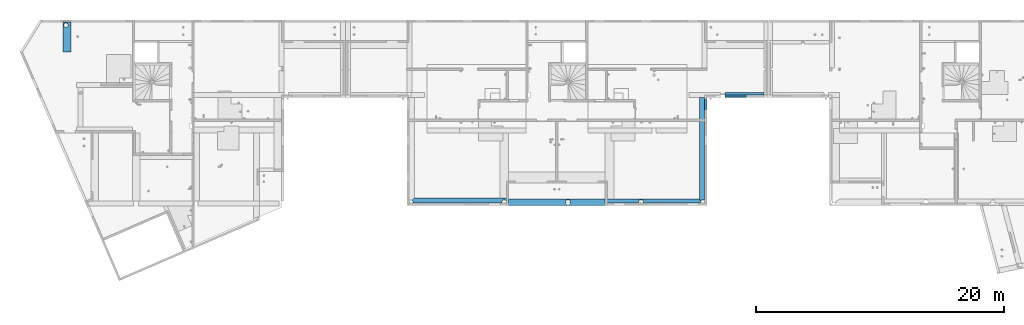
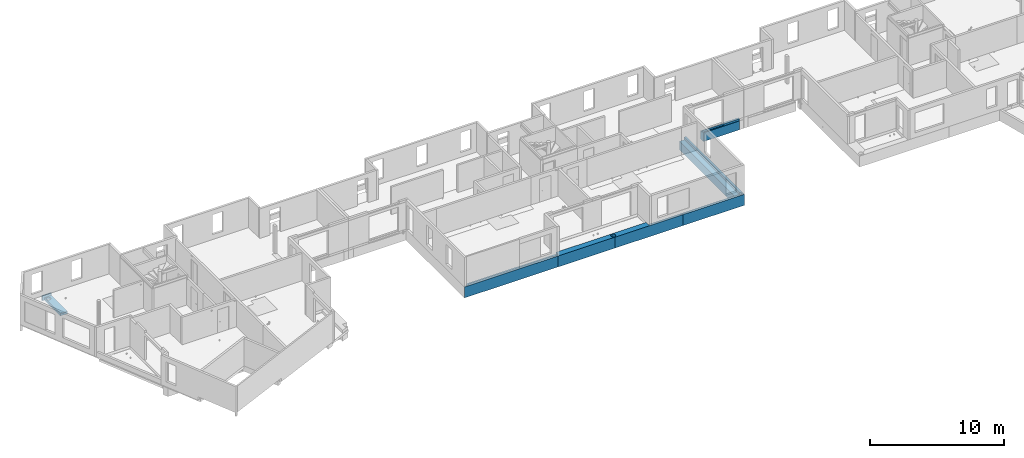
# One storey, part 21 of 34: 7 beams.
"""IFC2X3 building model written with IfcOpenShell, lengths in centimetres."""

from ifc_helpers import new_model, entity, si_unit, converted_unit, derived_unit, direction, frame, origin, place, context, subcontext, project, spatial, faceted_brep, material, type_object, element, save


model = new_model("IFC2X3")

# Units and contexts
model_context = context("Model", 3, precision=0.001, world=origin(), true_north=direction((6.12303176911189e-17, 1.0)))
body_context = subcontext(model_context, "Body", "Model", "MODEL_VIEW")
ifc_project = project(units=[si_unit("LENGTHUNIT", "METRE", prefix="CENTI"), si_unit("AREAUNIT", "SQUARE_METRE"), si_unit("VOLUMEUNIT", "CUBIC_METRE"), converted_unit("PLANEANGLEUNIT", "DEGREE", entity("IfcRatioMeasure", 0.0174532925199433), si_unit("PLANEANGLEUNIT", "RADIAN"), dimensions=[0, 0, 0, 0, 0, 0, 0]), si_unit("MASSUNIT", "GRAM", prefix="KILO"), derived_unit("MASSDENSITYUNIT", [(si_unit("MASSUNIT", "GRAM", prefix="KILO"), 1), (si_unit("LENGTHUNIT", "METRE"), -3)]), si_unit("TIMEUNIT", "SECOND"), si_unit("FREQUENCYUNIT", "HERTZ"), si_unit("THERMODYNAMICTEMPERATUREUNIT", "DEGREE_CELSIUS"), derived_unit("THERMALTRANSMITTANCEUNIT", [(si_unit("MASSUNIT", "GRAM", prefix="KILO"), 1), (si_unit("THERMODYNAMICTEMPERATUREUNIT", "KELVIN"), -1), (si_unit("TIMEUNIT", "SECOND"), -3)]), derived_unit("VOLUMETRICFLOWRATEUNIT", [(si_unit("LENGTHUNIT", "METRE"), 3), (si_unit("TIMEUNIT", "SECOND"), -1)]), si_unit("ELECTRICCURRENTUNIT", "AMPERE"), si_unit("ELECTRICVOLTAGEUNIT", "VOLT"), si_unit("POWERUNIT", "WATT"), si_unit("FORCEUNIT", "NEWTON"), si_unit("ILLUMINANCEUNIT", "LUX"), si_unit("LUMINOUSFLUXUNIT", "LUMEN"), si_unit("LUMINOUSINTENSITYUNIT", "CANDELA"), derived_unit("USERDEFINED", [(si_unit("MASSUNIT", "GRAM", prefix="KILO"), -1), (si_unit("LENGTHUNIT", "METRE"), -2), (si_unit("TIMEUNIT", "SECOND"), 3), (si_unit("LUMINOUSFLUXUNIT", "LUMEN"), 1)]), derived_unit("LINEARVELOCITYUNIT", [(si_unit("LENGTHUNIT", "METRE"), 1), (si_unit("TIMEUNIT", "SECOND"), -1)]), si_unit("PRESSUREUNIT", "PASCAL"), derived_unit("USERDEFINED", [(si_unit("LENGTHUNIT", "METRE"), -2), (si_unit("MASSUNIT", "GRAM", prefix="KILO"), 1), (si_unit("TIMEUNIT", "SECOND"), -2)])], contexts=[model_context])

# Site, building, storey
site_placement = place(None, origin())
site = spatial("IfcSite", under=ifc_project, at=site_placement, Name="Default", CompositionType="ELEMENT")
building_placement = place(site_placement, origin())
building = spatial("IfcBuilding", under=site, at=building_placement, Name="CAGE 03", CompositionType="ELEMENT")
storey_placement = place(building_placement, frame((0.0, 0.0, 340.0)))
storey = spatial("IfcBuildingStorey", under=building, at=storey_placement, Name="R+1", CompositionType="ELEMENT", Elevation=340.0)

# Beams
ifc_material = material(Name="Béton, C25/30")
beam_type_1 = type_object("IfcBeamType", Name="BBGO-Poutre rect:80x45ht", PredefinedType="BEAM")
beam_1_placement = place(storey_placement, frame((3077.36582014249, 5037.16066607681, -45.0), z_axis=(0.0, 0.0, 1.0), x_axis=(0.0, 1.0, 0.0)))
element("IfcBeam", 1, at=beam_1_placement, inside=storey, type_object=beam_type_1, material=ifc_material, Name="BBGO-Poutre rect:80x45ht", ObjectType="BBGO-Poutre rect:80x45ht", context=body_context, shape_type="Brep", body=[
    faceted_brep([(247.5, -40.0, 45.0), (247.5, -80.0, 45.0), (247.5, -80.0, 0.0), (247.5, -40.0, 0.0), (247.5, 0.0, 0.0), (247.5, 0.0, 45.0), (238.5, -80.0, 0.0), (238.499999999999, -80.0, 45.0), (238.499999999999, -80.0, 22.0), (0.0, -80.0, 22.0), (0.0, -80.0, 0.0), (229.155444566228, -48.7499999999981, 0.0), (230.90370196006, -44.5293332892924, 0.0), (231.500000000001, -40.0, 0.0), (230.90370196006, -35.4706667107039, 0.0), (238.5, -18.0, 0.0), (226.374368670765, -52.3743686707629, 0.0), (222.75, -55.1554445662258, 0.0), (218.529333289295, -56.903701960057, 0.0), (214.0, -57.4999999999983, 0.0), (209.470666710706, -56.903701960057, 0.0), (205.250000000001, -55.1554445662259, 0.0), (201.625631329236, -52.374368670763, 0.0), (198.844555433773, -48.7499999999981, 0.0), (197.096298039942, -44.5293332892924, 0.0), (196.5, -40.0, 0.0), (0.0, -18.0, 0.0), (197.096298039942, -35.4706667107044, 0.0), (198.844555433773, -31.2499999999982, 0.0), (201.625631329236, -27.6256313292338, 0.0), (205.250000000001, -24.8445554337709, 0.0), (209.470666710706, -23.0962980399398, 0.0), (214.0, -22.4999999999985, 0.0), (229.155444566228, -31.2499999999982, 0.0), (226.374368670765, -27.6256313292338, 0.0), (222.75, -24.8445554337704, 0.0), (218.529333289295, -23.0962980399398, 0.0), (238.5, 0.0, 0.0), (238.5, 0.0, 22.0), (238.499999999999, 0.0, 45.0), (231.500000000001, -40.0, 22.0), (230.90370196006, -44.5293332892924, 22.0), (238.499999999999, -18.0, 22.0), (230.90370196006, -35.4706667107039, 22.0), (229.155444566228, -48.7499999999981, 22.0), (226.374368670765, -52.3743686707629, 22.0), (222.75, -55.1554445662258, 22.0), (218.529333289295, -56.903701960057, 22.0), (214.0, -57.4999999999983, 22.0), (209.470666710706, -56.903701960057, 22.0), (205.250000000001, -55.1554445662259, 22.0), (201.625631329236, -52.374368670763, 22.0), (198.844555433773, -48.7499999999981, 22.0), (197.096298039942, -44.5293332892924, 22.0), (196.5, -40.0, 22.0), (0.0, -18.0, 22.0), (197.096298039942, -35.4706667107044, 22.0), (198.844555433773, -31.2499999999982, 22.0), (201.625631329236, -27.6256313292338, 22.0), (205.250000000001, -24.8445554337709, 22.0), (209.470666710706, -23.0962980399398, 22.0), (214.0, -22.4999999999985, 22.0), (218.529333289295, -23.0962980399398, 22.0), (222.75, -24.8445554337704, 22.0), (226.374368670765, -27.6256313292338, 22.0), (229.155444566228, -31.2499999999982, 22.0)], [[[0, 1, 2, 3, 4, 5]], [[6, 2, 1, 7, 8, 9, 10]], [[3, 2, 11]], [[11, 12, 3]], [[12, 13, 3]], [[3, 13, 14]], [[15, 3, 14]], [[15, 4, 3]], [[11, 2, 6]], [[16, 11, 6]], [[17, 16, 6]], [[6, 18, 17]], [[19, 18, 6]], [[6, 20, 19]], [[20, 6, 21]], [[10, 21, 6]], [[10, 22, 21]], [[22, 10, 23]], [[24, 23, 10]], [[10, 25, 24]], [[25, 10, 26]], [[27, 25, 26]], [[26, 28, 27]], [[28, 26, 29]], [[30, 29, 26]], [[26, 31, 30]], [[15, 31, 26]], [[31, 15, 32]], [[15, 14, 33]], [[33, 34, 15]], [[34, 35, 15]], [[35, 36, 15]], [[36, 32, 15]], [[37, 4, 15]], [[5, 4, 37, 38, 39]], [[0, 5, 39, 7, 1]], [[40, 41, 8]], [[42, 40, 8]], [[40, 42, 43]], [[44, 8, 41]], [[8, 44, 45]], [[8, 45, 46]], [[8, 46, 47]], [[47, 48, 8]], [[49, 8, 48]], [[50, 8, 49]], [[8, 50, 9]], [[50, 51, 9]], [[52, 9, 51]], [[9, 52, 53]], [[53, 54, 9]], [[55, 9, 54]], [[55, 54, 56]], [[56, 57, 55]], [[58, 55, 57]], [[55, 58, 59]], [[55, 59, 60]], [[60, 61, 42]], [[42, 55, 60]], [[42, 61, 62]], [[42, 62, 63]], [[42, 63, 64]], [[64, 65, 42]], [[65, 43, 42]], [[37, 15, 42, 8, 7, 39, 38]], [[26, 10, 9, 55]], [[15, 26, 55, 42]], [[30, 31, 60, 59]], [[30, 59, 58, 29]], [[27, 28, 57, 56]], [[58, 57, 28, 29]], [[25, 27, 56, 54]], [[32, 61, 60, 31]], [[23, 24, 53, 52]], [[23, 52, 51, 22]], [[20, 21, 50, 49]], [[51, 50, 21, 22]], [[19, 20, 49, 48]], [[54, 53, 24, 25]], [[47, 18, 19, 48]], [[12, 11, 44, 41]], [[16, 45, 44, 11]], [[13, 12, 41, 40]], [[47, 46, 17, 18]], [[46, 45, 16, 17]], [[33, 14, 43, 65]], [[33, 65, 64, 34]], [[36, 35, 63, 62]], [[64, 63, 35, 34]], [[32, 36, 62, 61]], [[40, 43, 14, 13]]]),
])
beam_type_2 = type_object("IfcBeamType", Name="BBGO-Poutre rect:40x100ht", PredefinedType="BEAM")
beam_2_placement = place(storey_placement, frame((8439.36582014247, 4668.66066607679, -100.0)))
element("IfcBeam", 2, at=beam_2_placement, inside=storey, type_object=beam_type_2, material=ifc_material, Name="BBGO-Poutre rect:40x100ht", ObjectType="BBGO-Poutre rect:40x100ht", context=body_context, shape_type="Brep", body=[
    faceted_brep([(313.0, 0.0, 0.0), (313.0, 40.0, 0.0), (313.0, 40.0, 77.0), (313.0, 18.0, 77.0), (313.0, 18.0, 100.0), (313.0, 0.0, 100.0), (313.0, 0.0, 99.5899561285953), (313.0, 2.0, 99.6099582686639), (313.0, 2.0, 80.0), (313.0, 0.0, 80.0), (173.0, 0.0, 100.0), (173.0, 0.0, 99.5899561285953), (0.0, 0.0, 0.0), (0.0, 40.0, 0.0), (0.0, 40.0, 77.0), (181.0, 18.0, 100.0), (181.0, 2.0, 100.0), (173.0, 2.0, 100.0), (0.0, 0.0, 80.0), (0.0, 2.0, 80.0), (0.0, 2.0, 88.0), (0.0, 18.0, 88.0), (0.0, 18.0, 77.0), (181.0, 18.0, 88.0), (173.0, 2.0, 99.6099582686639), (181.0, 2.0, 88.0), (181.0, 2.0, 99.6099582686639)], [[[0, 1, 2, 3, 4, 5, 6, 7, 8, 9]], [[5, 10, 11, 6]], [[1, 0, 12, 13]], [[1, 13, 14, 2]], [[5, 4, 15, 16, 17, 10]], [[13, 12, 18, 19, 20, 21, 22, 14]], [[2, 14, 22, 3]], [[3, 22, 21, 23, 15, 4]], [[11, 10, 17, 24]], [[21, 20, 25, 23]], [[8, 19, 18, 9]], [[24, 26, 7, 6, 11]], [[26, 25, 20, 19, 8, 7]], [[26, 24, 17, 16]], [[12, 0, 9, 18]], [[25, 26, 16, 15, 23]]]),
])
beam_type_3 = type_object("IfcBeamType", Name="BBGO-Poutre rect:50x100ht", PredefinedType="BEAM")
beam_3_placement = place(storey_placement, frame((6682.36582014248, 3796.6606660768, -100.0)))
element("IfcBeam", 3, at=beam_3_placement, inside=storey, type_object=beam_type_3, material=ifc_material, Name="BBGO-Poutre rect:50x100ht", ObjectType="BBGO-Poutre rect:50x100ht", context=body_context, shape_type="Brep", body=[
    faceted_brep([(0.0, 50.0, 0.0), (0.0, 0.0, 0.0), (0.0, 0.0, 100.0), (0.0, 18.0, 100.0), (0.0, 18.0, 77.0), (0.0, 50.0, 77.0), (489.0, 0.0, 0.0), (489.0, 0.0, 100.0), (9.0, 0.0, 100.0), (489.0, 5.0, 0.0), (9.0, 50.0, 0.0), (489.0, 50.0, 0.0), (489.0, 45.0, 0.0), (484.549581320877, 44.4985582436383, 0.0), (480.322325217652, 43.0193773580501, 0.0), (476.530203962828, 40.6366296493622, 0.0), (473.363370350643, 37.4697960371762, 0.0), (470.980622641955, 33.6776747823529, 0.0), (469.501441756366, 29.4504186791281, 0.0), (469.0, 25.0, 0.0), (469.501441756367, 20.5495813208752, 0.0), (470.980622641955, 16.3223252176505, 0.0), (473.363370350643, 12.5302039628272, 0.0), (476.530203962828, 9.36337035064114, 0.0), (480.322325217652, 6.98062264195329, 0.0), (484.549581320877, 5.50144175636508, 0.0), (9.0, 50.0, 77.0), (9.0, 50.0, 100.0), (489.0, 50.0, 100.0), (489.0, 50.0, 75.0), (9.0, 50.0, 75.0), (9.0, 50.0, 55.0), (489.0, 50.0, 55.0), (489.0, 45.0, 100.0), (9.0, 18.0, 100.0), (489.0, 5.0, 100.0), (484.549581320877, 5.50144175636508, 100.0), (480.322325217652, 6.98062264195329, 100.0), (476.530203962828, 9.36337035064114, 100.0), (473.363370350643, 12.5302039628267, 100.0), (470.980622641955, 16.3223252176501, 100.0), (470.241032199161, 18.4359532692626, 100.0), (469.501441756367, 20.5495813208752, 100.0), (469.250720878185, 22.774790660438, 100.0), (469.0, 25.0, 100.0), (469.501441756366, 29.4504186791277, 100.0), (470.980622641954, 33.6776747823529, 100.0), (473.363370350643, 37.4697960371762, 100.0), (476.530203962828, 40.6366296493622, 100.0), (480.322325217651, 43.0193773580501, 100.0), (484.549581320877, 44.4985582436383, 100.0), (469.318792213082, 21.4433077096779, 55.0), (469.0, 25.0, 55.0), (470.265006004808, 18.0, 55.0), (469.0, 25.0, 75.0), (469.318792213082, 21.4433077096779, 75.0), (470.265006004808, 18.0, 75.0), (489.0, 45.0, 55.0), (484.549581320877, 44.4985582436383, 55.0), (484.549581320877, 44.4985582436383, 75.0), (489.0, 45.0, 75.0), (480.322325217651, 43.0193773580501, 55.0), (480.322325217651, 43.0193773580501, 75.0), (476.530203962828, 40.6366296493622, 55.0), (476.530203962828, 40.6366296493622, 75.0), (473.363370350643, 37.4697960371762, 55.0), (473.363370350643, 37.4697960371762, 75.0), (470.980622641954, 33.6776747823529, 55.0), (470.980622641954, 33.6776747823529, 75.0), (469.501441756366, 29.4504186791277, 55.0), (469.501441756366, 29.4504186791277, 75.0), (9.0, 18.0, 55.0), (9.0, 18.0, 75.0), (9.0, 18.0, 77.0)], [[[0, 1, 2, 3, 4, 5]], [[6, 7, 8, 2, 1]], [[9, 6, 1, 0, 10, 11, 12, 13, 14, 15, 16, 17, 18, 19, 20, 21, 22, 23, 24, 25]], [[11, 10, 0, 5, 26, 27, 28, 29, 30, 31, 32]], [[33, 28, 27, 34, 3, 2, 8, 7, 35, 36, 37, 38, 39, 40, 41, 42, 43, 44, 45, 46, 47, 48, 49, 50]], [[51, 19, 52]], [[20, 51, 53]], [[19, 51, 20]], [[21, 20, 53]], [[54, 43, 55]], [[44, 43, 54]], [[42, 56, 55]], [[43, 42, 55]], [[53, 56, 40]], [[41, 40, 56, 42]], [[22, 21, 53]], [[23, 22, 39, 38]], [[25, 24, 37, 36]], [[38, 37, 24, 23]], [[9, 25, 36, 35]], [[53, 40, 39]], [[22, 53, 39]], [[13, 12, 57, 58]], [[33, 50, 59, 60]], [[14, 13, 58, 61]], [[50, 49, 62, 59]], [[15, 14, 61, 63]], [[49, 48, 64, 62]], [[63, 65, 16, 15]], [[48, 47, 66, 64]], [[17, 16, 65, 67]], [[47, 46, 68, 66]], [[18, 17, 67, 69]], [[46, 45, 70, 68]], [[19, 18, 69, 52]], [[45, 44, 54, 70]], [[7, 6, 9, 35]], [[33, 60, 29, 28]], [[57, 12, 11, 32]], [[58, 57, 32, 31, 71, 53, 51, 52, 69, 67, 65, 63, 61]], [[70, 54, 55, 56, 72, 30, 29, 60, 59, 62, 64, 66, 68]], [[56, 53, 71, 72]], [[3, 34, 73, 4]], [[72, 71, 31, 30]], [[4, 73, 26, 5]], [[27, 26, 73, 34]]]),
])
beam_4_placement = place(storey_placement, frame((7171.20707014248, 3796.6606660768, -100.0)))
element("IfcBeam", 4, at=beam_4_placement, inside=storey, type_object=beam_type_3, material=ifc_material, Name="BBGO-Poutre rect:50x100ht", ObjectType="BBGO-Poutre rect:50x100ht", context=body_context, shape_type="Brep", body=[
    faceted_brep([(590.15875, 0.0, 0.0), (590.15875, 0.0, 100.0), (318.15874999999, 0.0, 100.0), (300.158749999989, 0.0, 100.0), (0.158749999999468, 0.0, 100.0), (0.158749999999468, 0.0, 0.0), (590.15875, 5.0, 0.0), (0.158749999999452, 5.0, 0.0), (4.60916867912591, 5.50144175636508, 0.0), (8.83642478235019, 6.98062264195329, 0.0), (12.6285460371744, 9.36337035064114, 0.0), (15.79537964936, 12.5302039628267, 0.0), (18.1781273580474, 16.3223252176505, 0.0), (19.657308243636, 20.5495813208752, 0.0), (20.1587499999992, 25.0, 0.0), (19.657308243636, 29.4504186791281, 0.0), (18.1781273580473, 33.6776747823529, 0.0), (15.7953796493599, 37.4697960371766, 0.0), (12.6285460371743, 40.6366296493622, 0.0), (8.83642478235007, 43.0193773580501, 0.0), (4.60916867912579, 44.4985582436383, 0.0), (0.158749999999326, 45.0, 0.0), (0.15874999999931, 50.0, 0.0), (590.158749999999, 50.0, 0.0), (590.158749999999, 45.0, 0.0), (585.708331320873, 44.4985582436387, 0.0), (581.481075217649, 43.0193773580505, 0.0), (577.688953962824, 40.6366296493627, 0.0), (574.522120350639, 37.4697960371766, 0.0), (572.139372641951, 33.6776747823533, 0.0), (570.660191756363, 29.4504186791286, 0.0), (570.15875, 25.0, 0.0), (570.660191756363, 20.5495813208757, 0.0), (572.139372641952, 16.3223252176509, 0.0), (574.522120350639, 12.5302039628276, 0.0), (577.688953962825, 9.36337035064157, 0.0), (581.481075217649, 6.98062264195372, 0.0), (585.708331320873, 5.50144175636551, 0.0), (370.158749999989, 50.0, 77.0), (590.158749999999, 50.0, 77.0), (0.15874999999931, 50.0, 55.0), (300.158749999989, 50.0, 55.0), (300.158749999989, 50.0, 75.0), (0.15874999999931, 50.0, 75.0), (0.15874999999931, 50.0, 100.0), (300.158749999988, 50.0, 100.0), (300.158749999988, 50.0, 77.0), (590.15875, 5.0, 100.0), (586.140226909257, 5.40787218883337, 100.0), (582.28732545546, 6.61411749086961, 100.0), (578.755327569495, 8.56948093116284, 100.0), (575.688287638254, 11.1939969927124, 100.0), (573.210855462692, 14.3807311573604, 100.0), (571.423756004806, 18.0, 100.0), (318.158749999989, 18.0, 100.0), (300.158749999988, 18.0, 100.0), (0.158749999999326, 45.0, 100.0), (4.60916867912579, 44.4985582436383, 100.0), (8.83642478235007, 43.0193773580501, 100.0), (12.6285460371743, 40.6366296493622, 100.0), (15.7953796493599, 37.4697960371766, 100.0), (18.1781273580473, 33.6776747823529, 100.0), (19.657308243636, 29.4504186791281, 100.0), (20.1587499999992, 25.0, 100.0), (19.908029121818, 22.7747906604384, 100.0), (19.657308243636, 20.5495813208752, 100.0), (18.9177178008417, 18.4359532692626, 100.0), (18.1781273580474, 16.3223252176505, 100.0), (15.79537964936, 12.5302039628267, 100.0), (12.6285460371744, 9.36337035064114, 100.0), (8.83642478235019, 6.98062264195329, 100.0), (4.60916867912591, 5.50144175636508, 100.0), (0.158749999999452, 5.0, 100.0), (570.477542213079, 21.4433077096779, 77.0), (571.423756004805, 18.0, 77.0), (570.15875, 25.0, 77.0), (590.158749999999, 45.0, 77.0), (585.708331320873, 44.4985582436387, 77.0), (581.481075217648, 43.0193773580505, 77.0), (577.688953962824, 40.6366296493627, 77.0), (574.522120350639, 37.4697960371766, 77.0), (572.139372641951, 33.6776747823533, 77.0), (570.660191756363, 29.4504186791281, 77.0), (18.8937439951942, 18.0, 55.0), (19.8399577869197, 21.4433077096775, 55.0), (20.1587499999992, 25.0, 55.0), (18.8937439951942, 18.0, 75.0), (19.8399577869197, 21.4433077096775, 75.0), (20.1587499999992, 25.0, 75.0), (19.657308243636, 29.4504186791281, 55.0), (19.657308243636, 29.4504186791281, 75.0), (18.1781273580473, 33.6776747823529, 55.0), (18.1781273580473, 33.6776747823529, 75.0), (15.7953796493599, 37.4697960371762, 55.0), (15.7953796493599, 37.4697960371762, 75.0), (12.6285460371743, 40.6366296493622, 55.0), (12.6285460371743, 40.6366296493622, 75.0), (8.83642478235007, 43.0193773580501, 55.0), (8.83642478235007, 43.0193773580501, 75.0), (4.60916867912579, 44.4985582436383, 55.0), (4.60916867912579, 44.4985582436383, 75.0), (0.158749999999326, 45.0, 55.0), (0.158749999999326, 45.0, 75.0), (300.158749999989, 18.0, 55.0), (300.158749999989, 18.0, 75.0), (300.158749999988, 18.0, 77.0)], [[[0, 1, 2, 3, 4, 5]], [[6, 0, 5, 7, 8, 9, 10, 11, 12, 13, 14, 15, 16, 17, 18, 19, 20, 21, 22, 23, 24, 25, 26, 27, 28, 29, 30, 31, 32, 33, 34, 35, 36, 37]], [[38, 39, 23, 22, 40, 41, 42, 43, 44, 45, 46]], [[2, 1, 47, 48, 49, 50, 51, 52, 53, 54, 55, 45, 44, 56, 57, 58, 59, 60, 61, 62, 63, 64, 65, 66, 67, 68, 69, 70, 71, 72, 4, 3]], [[32, 31, 73]], [[33, 32, 74]], [[34, 33, 52]], [[73, 31, 75]], [[53, 52, 74]], [[33, 74, 52]], [[73, 74, 32]], [[52, 51, 34]], [[36, 35, 50]], [[37, 36, 49]], [[6, 37, 48]], [[50, 35, 51]], [[36, 50, 49]], [[49, 48, 37]], [[48, 47, 6]], [[34, 51, 35]], [[25, 24, 76, 77]], [[26, 25, 77, 78]], [[27, 26, 78, 79]], [[79, 80, 28, 27]], [[29, 28, 80, 81]], [[30, 29, 81, 82]], [[31, 30, 82, 75]], [[9, 8, 71, 70]], [[11, 10, 69, 68]], [[70, 69, 10, 9]], [[11, 68, 83]], [[7, 72, 71, 8]], [[83, 12, 11]], [[84, 13, 83]], [[12, 83, 13]], [[85, 14, 84]], [[13, 84, 14]], [[66, 65, 86, 67]], [[83, 67, 86]], [[87, 86, 65]], [[64, 63, 88]], [[87, 64, 88]], [[65, 64, 87]], [[68, 67, 83]], [[85, 89, 15, 14]], [[90, 88, 63, 62]], [[89, 91, 16, 15]], [[92, 90, 62, 61]], [[17, 16, 91, 93]], [[94, 92, 61, 60]], [[93, 95, 18, 17]], [[60, 59, 96, 94]], [[19, 18, 95, 97]], [[59, 58, 98, 96]], [[20, 19, 97, 99]], [[58, 57, 100, 98]], [[21, 20, 99, 101]], [[57, 56, 102, 100]], [[44, 43, 102, 56]], [[72, 7, 5, 4]], [[40, 22, 21, 101]], [[1, 0, 6, 47]], [[76, 24, 23, 39]], [[95, 93, 91, 89, 85, 84, 83, 103, 41, 40, 101, 99, 97]], [[87, 88, 90, 92, 94, 96, 98, 100, 102, 43, 42, 104, 86]], [[42, 41, 103, 104]], [[104, 103, 83, 86]], [[54, 53, 74, 105, 55]], [[77, 76, 39, 38, 46, 105, 74, 73, 75, 82, 81, 80, 79, 78]], [[45, 55, 105, 46]]]),
])
beam_5_placement = place(storey_placement, frame((7761.20707014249, 3796.6606660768, -100.0)))
element("IfcBeam", 5, at=beam_5_placement, inside=storey, type_object=beam_type_3, material=ifc_material, Name="BBGO-Poutre rect:50x100ht", ObjectType="BBGO-Poutre rect:50x100ht", context=body_context, shape_type="Brep", body=[
    faceted_brep([(531.15874999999, 0.0, 0.0), (531.15874999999, 0.0, 100.0), (0.158749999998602, 0.0, 100.0), (0.158749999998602, 0.0, 0.0), (499.108683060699, 5.10534681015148, 0.0), (503.989249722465, 5.20130632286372, 0.0), (508.701195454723, 6.47673040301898, 0.0), (512.963816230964, 8.85563840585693, 0.0), (516.523175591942, 12.1963120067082, 0.0), (0.158749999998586, 5.0, 0.0), (4.60916867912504, 5.50144175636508, 0.0), (8.83642478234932, 6.98062264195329, 0.0), (12.6285460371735, 9.36337035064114, 0.0), (15.7953796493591, 12.5302039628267, 0.0), (18.1781273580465, 16.3223252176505, 0.0), (19.6573082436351, 20.5495813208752, 0.0), (20.1587499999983, 25.0, 0.0), (19.6573082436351, 29.4504186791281, 0.0), (18.1781273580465, 33.6776747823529, 0.0), (15.795379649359, 37.4697960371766, 0.0), (12.6285460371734, 40.6366296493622, 0.0), (8.83642478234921, 43.0193773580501, 0.0), (4.60916867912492, 44.4985582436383, 0.0), (0.158749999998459, 45.0, 0.0), (0.158749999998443, 50.0, 0.0), (471.15874999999, 50.0, 0.0), (485.794324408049, 37.8036879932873, 0.0), (483.265836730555, 33.9355276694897, 0.0), (481.692647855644, 29.5903014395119, 0.0), (481.158749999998, 25.0, 0.0), (481.754478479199, 20.1549771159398, 0.0), (483.506174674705, 15.5985860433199, 0.0), (486.309485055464, 11.6022639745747, 0.0), (489.997408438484, 8.40408319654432, 0.0), (494.350244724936, 6.19456844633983, 0.0), (471.15874999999, 50.0, 77.0), (0.158749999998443, 50.0, 77.0), (491.275308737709, 7.61271761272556, 100.0), (487.540595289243, 10.3526158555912, 100.0), (484.536391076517, 13.8780764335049, 100.0), (482.423756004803, 18.0, 100.0), (18.8937439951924, 18.0, 100.0), (17.1066445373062, 14.3807311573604, 100.0), (14.6292123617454, 11.1939969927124, 100.0), (11.5621724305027, 8.56948093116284, 100.0), (8.03017454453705, 6.61411749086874, 100.0), (4.17727309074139, 5.40787218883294, 100.0), (0.158749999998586, 5.0, 100.0), (516.523175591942, 12.1963120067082, 100.0), (513.164425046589, 9.00425785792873, 100.0), (509.161901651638, 6.67107303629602, 100.0), (504.730052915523, 5.32143817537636, 100.0), (500.106845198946, 5.02768174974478, 100.0), (495.540292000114, 5.80539321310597, 100.0), (18.8937439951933, 18.0, 77.0), (19.8399577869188, 21.443307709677, 77.0), (20.1587499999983, 25.0, 77.0), (19.6573082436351, 29.4504186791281, 77.0), (18.1781273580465, 33.6776747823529, 77.0), (15.795379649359, 37.4697960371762, 77.0), (12.6285460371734, 40.6366296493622, 77.0), (8.83642478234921, 43.0193773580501, 77.0), (4.60916867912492, 44.4985582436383, 77.0), (0.158749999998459, 45.0, 77.0), (481.158749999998, 25.0, 77.0), (481.477542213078, 21.4433077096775, 77.0), (482.423756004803, 18.0, 77.0), (485.794324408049, 37.8036879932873, 77.0), (483.265836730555, 33.9355276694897, 77.0), (481.692647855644, 29.5903014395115, 77.0)], [[[0, 1, 2, 3]], [[4, 5, 6, 7, 8, 0, 3, 9, 10, 11, 12, 13, 14, 15, 16, 17, 18, 19, 20, 21, 22, 23, 24, 25, 26, 27, 28, 29, 30, 31, 32, 33, 34]], [[35, 25, 24, 36]], [[37, 38, 39, 40, 41, 42, 43, 44, 45, 46, 47, 2, 1, 48, 49, 50, 51, 52, 53]], [[10, 9, 46]], [[11, 10, 45]], [[12, 11, 44]], [[46, 9, 47]], [[10, 46, 45]], [[45, 44, 11]], [[44, 43, 12]], [[43, 13, 12]], [[14, 13, 42]], [[15, 14, 54]], [[16, 15, 55]], [[41, 54, 42]], [[14, 42, 54]], [[15, 54, 55]], [[55, 56, 16]], [[43, 42, 13]], [[57, 17, 16, 56]], [[57, 58, 18, 17]], [[19, 18, 58, 59]], [[59, 60, 20, 19]], [[21, 20, 60, 61]], [[22, 21, 61, 62]], [[23, 22, 62, 63]], [[36, 24, 23, 63]], [[47, 9, 3, 2]], [[29, 64, 65]], [[29, 65, 30]], [[32, 31, 39]], [[66, 31, 30]], [[33, 32, 38]], [[30, 65, 66]], [[39, 66, 40]], [[66, 39, 31]], [[39, 38, 32]], [[38, 37, 33]], [[37, 34, 33]], [[4, 34, 53]], [[4, 52, 5]], [[7, 6, 50]], [[51, 6, 5]], [[8, 7, 49]], [[53, 52, 4]], [[52, 51, 5]], [[6, 51, 50]], [[50, 49, 7]], [[49, 48, 8]], [[37, 53, 34]], [[67, 68, 27, 26]], [[68, 69, 28, 27]], [[69, 64, 29, 28]], [[26, 25, 35, 67]], [[1, 0, 8, 48]], [[68, 67, 35, 36, 63, 62, 61, 60, 59, 58, 57, 56, 55, 54, 66, 65, 64, 69]], [[40, 66, 54, 41]]]),
])
beam_type_4 = type_object("IfcBeamType", Name="BBGO-Poutre rect:60x100ht", PredefinedType="BEAM")
beam_6_placement = place(storey_placement, frame((5870.36582014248, 3796.6606660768, -100.0)))
element("IfcBeam", 6, at=beam_6_placement, inside=storey, type_object=beam_type_4, material=ifc_material, Name="BBGO-Poutre rect:60x100ht", ObjectType="BBGO-Poutre rect:60x100ht", context=body_context, shape_type="Brep", body=[
    faceted_brep([(821.0, 60.0, 77.0), (821.0, 50.0, 77.0), (821.0, 50.0, 75.0), (821.0, 50.0, 55.0), (821.0, 50.0, 0.0), (821.0, 60.0, 0.0), (821.0, 60.0, 10.0), (812.0, 0.0, 0.0), (812.0, 0.0, 100.0), (803.0, 0.0, 100.0), (477.0, 0.0, 100.0), (18.0, 0.0, 100.0), (0.0, 0.0, 100.0), (0.0, 0.0, 0.0), (797.361294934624, 8.54032268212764, 0.0), (800.970214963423, 11.7375468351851, 0.0), (793.092097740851, 6.29967514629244, 0.0), (803.709120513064, 15.7055365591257, 0.0), (805.418836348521, 20.2136867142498, 0.0), (806.0, 25.0, 0.0), (812.0, 50.0, 0.0), (788.410733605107, 5.14582251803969, 0.0), (783.589266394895, 5.14582251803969, 0.0), (33.7509801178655, 5.354895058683, 0.0), (29.1664668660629, 5.01737698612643, 0.0), (24.6259885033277, 5.73552491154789, 0.0), (20.3694148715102, 7.4713996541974, 0.0), (16.6216173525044, 10.1332963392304, 0.0), (13.5805890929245, 13.5805890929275, 0.0), (778.90790225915, 6.29967514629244, 0.0), (38.1373320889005, 6.7302483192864, 0.0), (774.638705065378, 8.54032268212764, 0.0), (42.093795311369, 9.07077795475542, 0.0), (771.029785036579, 11.7375468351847, 0.0), (45.4113529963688, 12.2528356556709, 0.0), (768.290879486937, 15.7055365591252, 0.0), (47.9147412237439, 16.1083158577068, 0.0), (766.58116365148, 20.2136867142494, 0.0), (49.4717079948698, 20.4335366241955, 0.0), (60.0, 60.0, 0.0), (50.0, 25.0, 0.0), (49.4230588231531, 29.7691493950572, 0.0), (47.7255214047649, 34.2631469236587, 0.0), (45.0053256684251, 38.2227153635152, 0.0), (41.4194109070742, 41.4194109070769, 0.0), (766.0, 25.0, 0.0), (766.58116365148, 29.7863132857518, 0.0), (768.290879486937, 34.2944634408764, 0.0), (771.029785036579, 38.2624531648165, 0.0), (774.638705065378, 41.459677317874, 0.0), (778.90790225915, 43.7003248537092, 0.0), (788.410733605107, 44.8541774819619, 0.0), (783.589266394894, 44.8541774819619, 0.0), (805.418836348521, 29.7863132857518, 0.0), (803.709120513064, 34.294463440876, 0.0), (800.970214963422, 38.2624531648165, 0.0), (797.361294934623, 41.459677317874, 0.0), (793.092097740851, 43.7003248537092, 0.0), (60.0, 60.0, 77.0), (751.0, 60.0, 77.0), (812.0, 18.0, 100.0), (804.734993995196, 18.0, 100.0), (802.74912687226, 14.0699154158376, 100.0), (799.951758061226, 10.6700158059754, 100.0), (796.478317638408, 7.96459981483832, 100.0), (792.497245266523, 6.08477322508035, 100.0), (788.201449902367, 5.1215287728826, 100.0), (783.79905246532, 5.12147314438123, 100.0), (779.503318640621, 6.08457953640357, 100.0), (775.522344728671, 7.96419241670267, 100.0), (772.048993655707, 10.6692839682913, 100.0), (769.251562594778, 14.0688589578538, 100.0), (767.265006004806, 18.0, 100.0), (477.0, 18.0, 100.0), (48.7349939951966, 18.0, 100.0), (46.7818975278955, 14.1202980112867, 100.0), (44.037252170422, 10.7537530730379, 100.0), (40.6304779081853, 8.059134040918, 100.0), (36.7222078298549, 6.16354805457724, 100.0), (32.4967282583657, 5.156453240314, 100.0), (28.153304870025, 5.08543957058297, 100.0), (23.8968019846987, 5.95397747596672, 100.0), (19.928035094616, 7.72124070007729, 100.0), (16.4344372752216, 10.3038948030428, 100.0), (13.5805890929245, 13.5805890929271, 100.0), (48.7349939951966, 18.0, 77.0), (49.6812077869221, 21.4433077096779, 77.0), (50.0, 25.0, 77.0), (49.4230588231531, 29.7691493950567, 77.0), (47.7255214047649, 34.2631469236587, 77.0), (45.0053256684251, 38.2227153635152, 77.0), (41.4194109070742, 41.4194109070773, 77.0), (766.31879221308, 21.4433077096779, 77.0), (766.0, 25.0, 77.0), (767.265006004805, 18.0, 77.0), (805.681207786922, 21.4433077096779, 77.0), (804.734993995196, 18.0, 77.0), (806.0, 25.0, 77.0), (805.418836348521, 29.7863132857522, 77.0), (803.709120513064, 34.2944634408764, 77.0), (797.361294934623, 41.459677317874, 77.0), (793.092097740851, 43.7003248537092, 77.0), (800.970214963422, 38.2624531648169, 77.0), (788.410733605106, 44.8541774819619, 77.0), (783.589266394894, 44.8541774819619, 77.0), (778.90790225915, 43.7003248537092, 77.0), (774.638705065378, 41.459677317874, 77.0), (768.290879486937, 34.294463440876, 77.0), (766.58116365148, 29.7863132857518, 77.0), (771.029785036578, 38.2624531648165, 77.0), (812.0, 50.0, 77.0), (812.0, 18.0, 77.0)], [[[0, 1, 2, 3, 4, 5, 6]], [[7, 8, 9, 10, 11, 12, 13]], [[7, 14, 15]], [[14, 7, 16]], [[7, 15, 17]], [[17, 18, 7]], [[18, 19, 7]], [[19, 20, 7]], [[21, 16, 7]], [[22, 21, 7]], [[7, 23, 22]], [[7, 13, 23]], [[13, 24, 23]], [[24, 13, 25]], [[25, 13, 26]], [[27, 26, 13]], [[28, 27, 13]], [[22, 23, 29]], [[29, 23, 30]], [[31, 29, 30]], [[32, 31, 30]], [[33, 31, 32]], [[34, 33, 32]], [[35, 33, 34]], [[35, 34, 36]], [[35, 36, 37]], [[37, 36, 38]], [[37, 38, 39]], [[38, 40, 39]], [[40, 41, 39]], [[41, 42, 39]], [[42, 43, 39]], [[43, 44, 39]], [[45, 37, 39]], [[46, 45, 39]], [[39, 47, 46]], [[48, 47, 39]], [[48, 39, 49]], [[50, 49, 39]], [[5, 50, 39]], [[5, 4, 20]], [[51, 5, 20]], [[51, 52, 5]], [[50, 5, 52]], [[20, 19, 53]], [[54, 20, 53]], [[54, 55, 20]], [[20, 55, 56]], [[56, 57, 20]], [[57, 51, 20]], [[6, 5, 39, 58, 59, 0]], [[60, 61, 62, 63, 64, 65, 66, 67, 68, 69, 70, 71, 72, 73, 74, 75, 76, 77, 78, 79, 80, 81, 82, 83, 84, 12, 11, 10, 9, 8]], [[27, 28, 83]], [[27, 82, 26]], [[24, 25, 80]], [[81, 25, 26]], [[23, 24, 79]], [[84, 83, 28]], [[83, 82, 27]], [[82, 81, 26]], [[81, 80, 25]], [[24, 80, 79]], [[79, 78, 23]], [[78, 30, 23]], [[32, 30, 77]], [[32, 76, 34]], [[38, 36, 85]], [[75, 36, 34]], [[40, 38, 86]], [[76, 75, 34]], [[32, 77, 76]], [[86, 38, 85]], [[86, 87, 40]], [[75, 74, 85]], [[36, 75, 85]], [[78, 77, 30]], [[88, 89, 42, 41]], [[88, 41, 40, 87]], [[90, 91, 44, 43]], [[89, 90, 43, 42]], [[37, 45, 92]], [[45, 93, 92]], [[35, 37, 94]], [[69, 29, 31]], [[31, 33, 70]], [[33, 35, 71]], [[22, 29, 68]], [[37, 92, 94]], [[94, 72, 71]], [[94, 71, 35]], [[71, 70, 33]], [[70, 69, 31]], [[29, 69, 68]], [[68, 67, 22]], [[67, 21, 22]], [[16, 64, 14]], [[21, 65, 16]], [[15, 14, 63]], [[95, 18, 96]], [[62, 17, 15]], [[18, 17, 96]], [[95, 19, 18]], [[96, 17, 62]], [[64, 16, 65]], [[14, 64, 63]], [[21, 66, 65]], [[19, 95, 97]], [[61, 96, 62]], [[15, 63, 62]], [[67, 66, 21]], [[54, 53, 98, 99]], [[97, 98, 53, 19]], [[100, 101, 57, 56]], [[56, 55, 102, 100]], [[55, 54, 99, 102]], [[51, 57, 101, 103]], [[103, 104, 52, 51]], [[50, 52, 104, 105]], [[50, 105, 106, 49]], [[107, 108, 46, 47]], [[47, 48, 109, 107]], [[48, 49, 106, 109]], [[45, 46, 108, 93]], [[84, 28, 13, 12]], [[39, 44, 91, 58]], [[110, 1, 0, 59, 58, 91, 90, 89, 88, 87, 86, 85, 94, 92, 93, 108, 107, 109, 106, 105, 104, 103, 101, 100, 102, 99, 98, 97, 95, 96, 111]], [[60, 111, 96, 61]], [[73, 72, 94, 85, 74]], [[111, 60, 8, 7, 20, 110]], [[110, 20, 4, 3, 2, 1]]]),
])
beam_7_placement = place(storey_placement, frame((8232.36582014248, 3796.6606660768, -100.0), z_axis=(0.0, 0.0, 1.0), x_axis=(0.0, 1.0, 0.0)))
element("IfcBeam", 7, at=beam_7_placement, inside=storey, type_object=beam_type_4, material=ifc_material, Name="BBGO-Poutre rect:60x100ht", ObjectType="BBGO-Poutre rect:60x100ht", context=body_context, shape_type="Brep", body=[
    faceted_brep([(872.0, -60.0, 0.0), (872.0, -60.0, 100.0), (860.0, -60.0, 100.0), (769.0, -60.0, 100.0), (18.0, -60.0, 100.0), (0.0, -60.0, 100.0), (0.0, -60.0, 0.0), (12.1963120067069, -45.3644255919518, 0.0), (16.0644723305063, -47.8929132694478, 0.0), (20.4096985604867, -49.4661021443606, 0.0), (25.0, -50.0, 0.0), (29.8450228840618, -49.4042715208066, 0.0), (34.4014139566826, -47.6525753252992, 0.0), (38.3977360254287, -44.8492649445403, 0.0), (41.5959168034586, -41.1613415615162, 0.0), (43.8054315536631, -36.8085052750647, 0.0), (44.8946531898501, -32.0500669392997, 0.0), (44.7986936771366, -27.1695002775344, 0.0), (43.5232695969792, -22.457554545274, 0.0), (41.1443615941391, -18.1949337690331, 0.0), (37.8036879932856, -14.6355744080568, 0.0), (50.0, 0.0, 0.0), (872.0, 0.0, 0.0), (872.0, 0.0, 77.0), (50.0, 0.0, 77.0), (872.0, -42.0, 100.0), (860.0, -42.0, 100.0), (769.0, -42.0, 100.0), (41.0, -42.0, 100.0), (37.81530102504, -45.354740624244, 100.0), (33.9448436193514, -47.8882579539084, 100.0), (29.5957298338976, -49.4648212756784, 100.0), (25.0, -50.0, 100.0), (20.4096985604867, -49.4661021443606, 100.0), (16.0644723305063, -47.8929132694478, 100.0), (12.1963120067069, -45.3644255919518, 100.0), (41.0, -42.0, 77.0), (43.2090362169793, -38.2723031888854, 77.0), (25.0, -50.0, 50.6198419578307), (44.5633600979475, -34.156313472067, 77.0), (44.9994011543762, -29.845230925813, 77.0), (43.0788295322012, -21.446876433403, 77.0), (44.4966920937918, -25.5414130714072, 77.0), (40.8123663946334, -17.7538141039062, 77.0), (37.8036879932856, -14.6355744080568, 77.0), (18.1914947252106, -48.8054315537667, 50.0), (12.1963120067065, -45.3644255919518, 49.3801580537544), (872.0, -42.0, 77.0)], [[[0, 1, 2, 3, 4, 5, 6]], [[0, 6, 7, 8, 9, 10, 11, 12, 13, 14, 15, 16, 17, 18, 19, 20, 21, 22]], [[23, 22, 21, 24]], [[2, 1, 25, 26, 27, 28, 29, 30, 31, 32, 33, 34, 35, 5, 4, 3]], [[12, 11, 30]], [[11, 10, 31]], [[36, 14, 13]], [[37, 14, 36]], [[29, 13, 12]], [[29, 36, 13]], [[31, 10, 38, 32]], [[30, 11, 31]], [[29, 28, 36]], [[12, 30, 29]], [[37, 15, 14]], [[16, 15, 39]], [[16, 40, 17]], [[19, 18, 41]], [[42, 18, 17]], [[20, 19, 43]], [[39, 40, 16]], [[40, 42, 17]], [[18, 42, 41]], [[41, 43, 19]], [[43, 44, 20]], [[37, 39, 15]], [[45, 8, 46]], [[34, 46, 35]], [[46, 8, 7]], [[8, 45, 9]], [[9, 38, 10]], [[38, 33, 32]], [[45, 33, 38]], [[9, 45, 38]], [[45, 46, 34]], [[45, 34, 33]], [[20, 44, 24, 21]], [[6, 5, 35, 46, 7]], [[47, 25, 1, 0, 22, 23]], [[24, 44, 43, 41, 42, 40, 39, 37, 36, 47, 23]], [[27, 26, 25, 47, 36, 28]]]),
])

save(model, "model.ifc")
